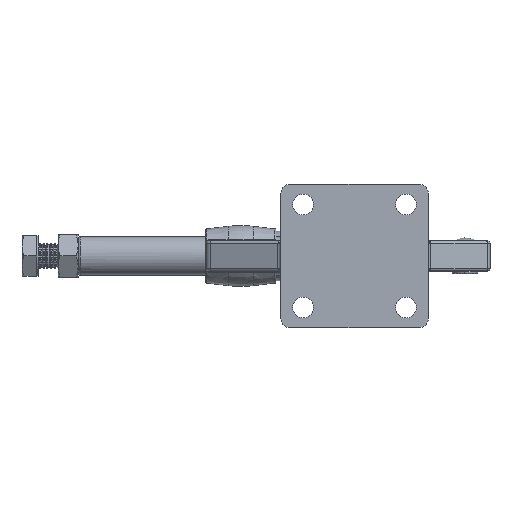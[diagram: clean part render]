
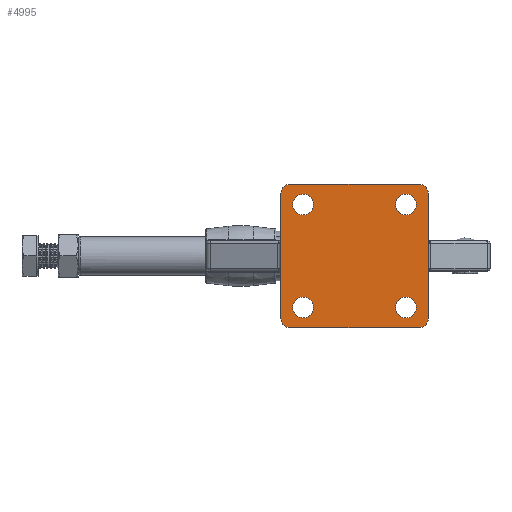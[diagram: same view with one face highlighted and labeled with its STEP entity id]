
A CAD part, front view. The second image highlights one B-rep face of the part: STEP entity #4995.
In plain terms, the highlighted planar face has unit normal (0, -1, 0).
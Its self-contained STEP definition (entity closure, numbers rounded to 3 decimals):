
#47 = AXIS2_PLACEMENT_3D ( 'NONE', #4624, #12251, #13446 ) ;
#200 = CARTESIAN_POINT ( 'NONE',  ( 29.4, 0., -28.6 ) ) ;
#246 = EDGE_CURVE ( 'NONE', #5159, #7615, #14601, .T. ) ;
#248 = LINE ( 'NONE', #10180, #15040 ) ;
#381 = CARTESIAN_POINT ( 'NONE',  ( 20.55, 0., 24.7 ) ) ;
#556 = CARTESIAN_POINT ( 'NONE',  ( -20.55, 0., -24.7 ) ) ;
#637 = CIRCLE ( 'NONE', #9476, 3.5 ) ;
#699 = ORIENTED_EDGE ( 'NONE', *, *, #2325, .F. ) ;
#712 = VERTEX_POINT ( 'NONE', #6948 ) ;
#907 = FACE_BOUND ( 'NONE', #2315, .T. ) ;
#954 = VECTOR ( 'NONE', #10296, 1000. ) ;
#976 = CARTESIAN_POINT ( 'NONE',  ( -25.9, 0., 25.1 ) ) ;
#1064 = ORIENTED_EDGE ( 'NONE', *, *, #15691, .F. ) ;
#1368 = CARTESIAN_POINT ( 'NONE',  ( -20.55, 0., 16.4 ) ) ;
#1429 = LINE ( 'NONE', #200, #10631 ) ;
#1512 = EDGE_CURVE ( 'NONE', #8958, #12003, #1429, .T. ) ;
#1525 = ORIENTED_EDGE ( 'NONE', *, *, #1512, .F. ) ;
#1552 = ORIENTED_EDGE ( 'NONE', *, *, #14650, .T. ) ;
#1657 = DIRECTION ( 'NONE',  ( 0., 1., 0. ) ) ;
#1745 = DIRECTION ( 'NONE',  ( 0., -1., 0. ) ) ;
#1867 = AXIS2_PLACEMENT_3D ( 'NONE', #5776, #9419, #10718 ) ;
#1887 = CIRCLE ( 'NONE', #3196, 4.15 ) ;
#1943 = CIRCLE ( 'NONE', #4553, 4.15 ) ;
#2278 = DIRECTION ( 'NONE',  ( 0., 0., 1. ) ) ;
#2295 = VERTEX_POINT ( 'NONE', #1368 ) ;
#2315 = EDGE_LOOP ( 'NONE', ( #14059, #13323 ) ) ;
#2325 = EDGE_CURVE ( 'NONE', #14015, #6819, #248, .T. ) ;
#2572 = VERTEX_POINT ( 'NONE', #14457 ) ;
#2628 = CARTESIAN_POINT ( 'NONE',  ( -20.55, 0., -16.4 ) ) ;
#3059 = VERTEX_POINT ( 'NONE', #556 ) ;
#3196 = AXIS2_PLACEMENT_3D ( 'NONE', #11949, #4337, #9599 ) ;
#3429 = DIRECTION ( 'NONE',  ( 0., -1., 0. ) ) ;
#3434 = FACE_BOUND ( 'NONE', #8034, .T. ) ;
#3478 = DIRECTION ( 'NONE',  ( 0., 1., 0. ) ) ;
#3517 = PLANE ( 'NONE',  #14068 ) ;
#3780 = CARTESIAN_POINT ( 'NONE',  ( 20.55, 0., -16.4 ) ) ;
#3805 = CIRCLE ( 'NONE', #14894, 4.15 ) ;
#3834 = ORIENTED_EDGE ( 'NONE', *, *, #13988, .T. ) ;
#4040 = VERTEX_POINT ( 'NONE', #2628 ) ;
#4115 = CARTESIAN_POINT ( 'NONE',  ( 29.4, 0., -28.6 ) ) ;
#4334 = EDGE_CURVE ( 'NONE', #11791, #2295, #1887, .T. ) ;
#4337 = DIRECTION ( 'NONE',  ( 0., 1., 0. ) ) ;
#4367 = ORIENTED_EDGE ( 'NONE', *, *, #6688, .T. ) ;
#4422 = EDGE_CURVE ( 'NONE', #4040, #3059, #8644, .T. ) ;
#4498 = DIRECTION ( 'NONE',  ( 0., -1., 0. ) ) ;
#4553 = AXIS2_PLACEMENT_3D ( 'NONE', #15745, #5880, #9525 ) ;
#4624 = CARTESIAN_POINT ( 'NONE',  ( 25.9, 0., -25.1 ) ) ;
#4650 = FACE_BOUND ( 'NONE', #12118, .T. ) ;
#4658 = DIRECTION ( 'NONE',  ( 0., 0., 1. ) ) ;
#4879 = ORIENTED_EDGE ( 'NONE', *, *, #246, .F. ) ;
#4995 = ADVANCED_FACE ( 'NONE', ( #907, #4650, #9606, #3434, #15674 ), #3517, .T. ) ;
#5091 = CIRCLE ( 'NONE', #13345, 3.5 ) ;
#5159 = VERTEX_POINT ( 'NONE', #13638 ) ;
#5515 = DIRECTION ( 'NONE',  ( 0., 0., 1. ) ) ;
#5611 = ORIENTED_EDGE ( 'NONE', *, *, #12181, .T. ) ;
#5733 = EDGE_CURVE ( 'NONE', #14015, #7615, #7130, .T. ) ;
#5751 = EDGE_LOOP ( 'NONE', ( #5611, #10129 ) ) ;
#5776 = CARTESIAN_POINT ( 'NONE',  ( -20.55, 0., 20.55 ) ) ;
#5880 = DIRECTION ( 'NONE',  ( 0., 1., 0. ) ) ;
#5961 = DIRECTION ( 'NONE',  ( 0., 0., -1. ) ) ;
#5973 = VERTEX_POINT ( 'NONE', #12898 ) ;
#6058 = CARTESIAN_POINT ( 'NONE',  ( -25.9, 0., -25.1 ) ) ;
#6069 = CARTESIAN_POINT ( 'NONE',  ( 29.4, 0., 25.1 ) ) ;
#6541 = CARTESIAN_POINT ( 'NONE',  ( 20.55, 0., -24.7 ) ) ;
#6574 = VERTEX_POINT ( 'NONE', #381 ) ;
#6688 = EDGE_CURVE ( 'NONE', #11292, #10020, #12076, .T. ) ;
#6819 = VERTEX_POINT ( 'NONE', #8716 ) ;
#6833 = ORIENTED_EDGE ( 'NONE', *, *, #10600, .T. ) ;
#6948 = CARTESIAN_POINT ( 'NONE',  ( -25.9, 0., -28.6 ) ) ;
#7026 = CARTESIAN_POINT ( 'NONE',  ( -29.4, 0., 25.1 ) ) ;
#7130 = CIRCLE ( 'NONE', #8173, 3.5 ) ;
#7234 = DIRECTION ( 'NONE',  ( 0., 1., 0. ) ) ;
#7398 = CARTESIAN_POINT ( 'NONE',  ( 29.4, 0., -25.1 ) ) ;
#7402 = CARTESIAN_POINT ( 'NONE',  ( -20.55, 0., -20.55 ) ) ;
#7550 = ORIENTED_EDGE ( 'NONE', *, *, #4422, .T. ) ;
#7615 = VERTEX_POINT ( 'NONE', #7026 ) ;
#7846 = CARTESIAN_POINT ( 'NONE',  ( 20.55, 0., 20.55 ) ) ;
#7953 = CARTESIAN_POINT ( 'NONE',  ( -25.9, 0., 28.6 ) ) ;
#8034 = EDGE_LOOP ( 'NONE', ( #4367, #8414 ) ) ;
#8173 = AXIS2_PLACEMENT_3D ( 'NONE', #976, #3429, #5961 ) ;
#8414 = ORIENTED_EDGE ( 'NONE', *, *, #13098, .T. ) ;
#8526 = DIRECTION ( 'NONE',  ( 0., 1., 0. ) ) ;
#8644 = CIRCLE ( 'NONE', #12768, 4.15 ) ;
#8679 = CIRCLE ( 'NONE', #12539, 4.15 ) ;
#8716 = CARTESIAN_POINT ( 'NONE',  ( 25.9, 0., 28.6 ) ) ;
#8958 = VERTEX_POINT ( 'NONE', #6069 ) ;
#9229 = CARTESIAN_POINT ( 'NONE',  ( 25.9, 0., 25.1 ) ) ;
#9230 = ORIENTED_EDGE ( 'NONE', *, *, #5733, .T. ) ;
#9308 = DIRECTION ( 'NONE',  ( 0., 0., -1. ) ) ;
#9328 = DIRECTION ( 'NONE',  ( 0., 0., 1. ) ) ;
#9419 = DIRECTION ( 'NONE',  ( 0., 1., 0. ) ) ;
#9460 = EDGE_CURVE ( 'NONE', #2295, #11791, #13525, .T. ) ;
#9461 = DIRECTION ( 'NONE',  ( 0., 0., -1. ) ) ;
#9476 = AXIS2_PLACEMENT_3D ( 'NONE', #6058, #13103, #9461 ) ;
#9525 = DIRECTION ( 'NONE',  ( 0., 0., 1. ) ) ;
#9577 = DIRECTION ( 'NONE',  ( 1., 0., 0. ) ) ;
#9599 = DIRECTION ( 'NONE',  ( 0., 0., 1. ) ) ;
#9606 = FACE_OUTER_BOUND ( 'NONE', #14891, .T. ) ;
#9690 = DIRECTION ( 'NONE',  ( 0., 0., 1. ) ) ;
#10020 = VERTEX_POINT ( 'NONE', #3780 ) ;
#10129 = ORIENTED_EDGE ( 'NONE', *, *, #12749, .T. ) ;
#10180 = CARTESIAN_POINT ( 'NONE',  ( 29.4, 0., 28.6 ) ) ;
#10240 = CIRCLE ( 'NONE', #12552, 4.15 ) ;
#10257 = CARTESIAN_POINT ( 'NONE',  ( -20.55, 0., 24.7 ) ) ;
#10296 = DIRECTION ( 'NONE',  ( -1., 0., 0. ) ) ;
#10600 = EDGE_CURVE ( 'NONE', #2572, #12003, #11731, .T. ) ;
#10631 = VECTOR ( 'NONE', #15203, 1000. ) ;
#10718 = DIRECTION ( 'NONE',  ( 0., 0., 1. ) ) ;
#11292 = VERTEX_POINT ( 'NONE', #6541 ) ;
#11731 = CIRCLE ( 'NONE', #47, 3.5 ) ;
#11791 = VERTEX_POINT ( 'NONE', #10257 ) ;
#11949 = CARTESIAN_POINT ( 'NONE',  ( -20.55, 0., 20.55 ) ) ;
#12003 = VERTEX_POINT ( 'NONE', #7398 ) ;
#12076 = CIRCLE ( 'NONE', #15945, 4.15 ) ;
#12118 = EDGE_LOOP ( 'NONE', ( #3834, #7550 ) ) ;
#12181 = EDGE_CURVE ( 'NONE', #5973, #6574, #8679, .T. ) ;
#12251 = DIRECTION ( 'NONE',  ( 0., -1., 0. ) ) ;
#12539 = AXIS2_PLACEMENT_3D ( 'NONE', #14327, #14167, #5515 ) ;
#12552 = AXIS2_PLACEMENT_3D ( 'NONE', #7846, #1657, #4658 ) ;
#12749 = EDGE_CURVE ( 'NONE', #6574, #5973, #10240, .T. ) ;
#12768 = AXIS2_PLACEMENT_3D ( 'NONE', #7402, #7234, #9690 ) ;
#12853 = EDGE_CURVE ( 'NONE', #5159, #712, #637, .T. ) ;
#12898 = CARTESIAN_POINT ( 'NONE',  ( 20.55, 0., 16.4 ) ) ;
#13098 = EDGE_CURVE ( 'NONE', #10020, #11292, #1943, .T. ) ;
#13103 = DIRECTION ( 'NONE',  ( 0., -1., 0. ) ) ;
#13323 = ORIENTED_EDGE ( 'NONE', *, *, #4334, .T. ) ;
#13345 = AXIS2_PLACEMENT_3D ( 'NONE', #9229, #1745, #9308 ) ;
#13399 = CARTESIAN_POINT ( 'NONE',  ( 0., 0., 0. ) ) ;
#13446 = DIRECTION ( 'NONE',  ( 0., 0., -1. ) ) ;
#13525 = CIRCLE ( 'NONE', #1867, 4.15 ) ;
#13638 = CARTESIAN_POINT ( 'NONE',  ( -29.4, 0., -25.1 ) ) ;
#13919 = LINE ( 'NONE', #4115, #954 ) ;
#13934 = ORIENTED_EDGE ( 'NONE', *, *, #12853, .T. ) ;
#13988 = EDGE_CURVE ( 'NONE', #3059, #4040, #3805, .T. ) ;
#14015 = VERTEX_POINT ( 'NONE', #7953 ) ;
#14059 = ORIENTED_EDGE ( 'NONE', *, *, #9460, .T. ) ;
#14068 = AXIS2_PLACEMENT_3D ( 'NONE', #13399, #4498, #15832 ) ;
#14167 = DIRECTION ( 'NONE',  ( 0., 1., 0. ) ) ;
#14327 = CARTESIAN_POINT ( 'NONE',  ( 20.55, 0., 20.55 ) ) ;
#14457 = CARTESIAN_POINT ( 'NONE',  ( 25.9, 0., -28.6 ) ) ;
#14514 = CARTESIAN_POINT ( 'NONE',  ( -29.4, 0., -28.6 ) ) ;
#14593 = DIRECTION ( 'NONE',  ( 0., 0., 1. ) ) ;
#14601 = LINE ( 'NONE', #14514, #14708 ) ;
#14650 = EDGE_CURVE ( 'NONE', #8958, #6819, #5091, .T. ) ;
#14677 = CARTESIAN_POINT ( 'NONE',  ( -20.55, 0., -20.55 ) ) ;
#14708 = VECTOR ( 'NONE', #2278, 1000. ) ;
#14891 = EDGE_LOOP ( 'NONE', ( #1064, #6833, #1525, #1552, #699, #9230, #4879, #13934 ) ) ;
#14894 = AXIS2_PLACEMENT_3D ( 'NONE', #14677, #8526, #14593 ) ;
#15040 = VECTOR ( 'NONE', #9577, 1000. ) ;
#15203 = DIRECTION ( 'NONE',  ( 0., 0., -1. ) ) ;
#15674 = FACE_BOUND ( 'NONE', #5751, .T. ) ;
#15691 = EDGE_CURVE ( 'NONE', #2572, #712, #13919, .T. ) ;
#15745 = CARTESIAN_POINT ( 'NONE',  ( 20.55, 0., -20.55 ) ) ;
#15795 = CARTESIAN_POINT ( 'NONE',  ( 20.55, 0., -20.55 ) ) ;
#15832 = DIRECTION ( 'NONE',  ( 0., 0., -1. ) ) ;
#15945 = AXIS2_PLACEMENT_3D ( 'NONE', #15795, #3478, #9328 ) ;
